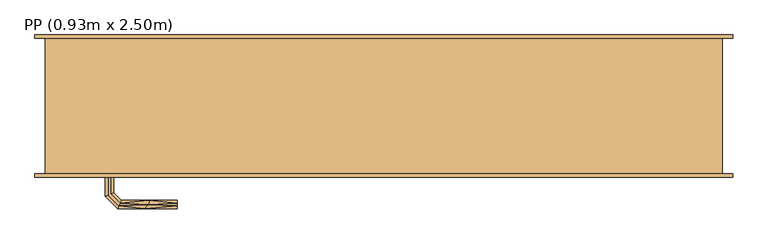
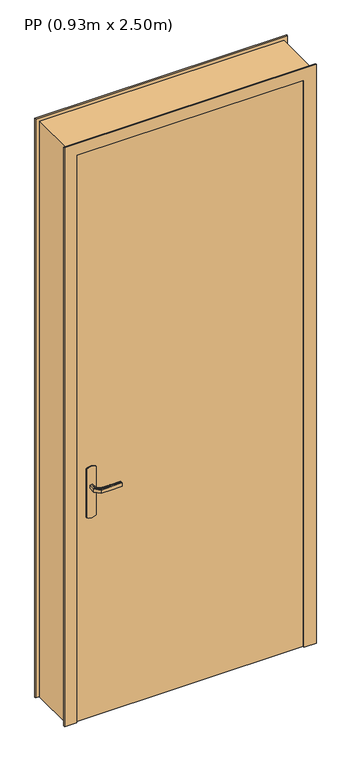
"""IFC4 building model written with IfcOpenShell, lengths in millimetres: door geometry, PP (0.93m x 2.50m)."""

from ifc_helpers import new_model, si_unit, frame, origin, origin_with_axes, place, context, project, spatial, polyline, outline, extrude, faceted_brep, source, transform, mapped, element, save


def pp_0_93m_x_2_50m_67def22d(model_context):
    return source(origin(), model_context, "Body", "SolidModel", [
        faceted_brep([(0.0, 200.0, 0.0), (-15.0, 200.0, 0.0), (-15.0, 205.0, 0.0), (50.0, 205.0, 0.0), (50.0, 40.0, 0.0), (35.0, 40.0, 0.0), (35.0, -5.0, 0.0), (-15.0, -5.0, 0.0), (-15.0, 0.0, 0.0), (0.0, 0.0, 0.0), (0.0, 200.0, 2485.0), (1000.0, 200.0, 2485.0), (1000.0, 200.0, 0.0), (1015.0, 200.0, 0.0), (1015.0, 200.0, 2500.0), (-15.0, 200.0, 2500.0), (-15.0, 205.0, 2500.0), (1015.0, 205.0, 2500.0), (1015.0, 205.0, 0.0), (950.0, 205.0, 0.0), (950.0, 205.0, 2435.0), (50.0, 205.0, 2435.0), (50.0, 40.0, 2435.0), (950.0, 40.0, 2435.0), (950.0, 40.0, 0.0), (965.0, 40.0, 0.0), (965.0, 40.0, 2450.0), (35.0, 40.0, 2450.0), (35.0, -5.0, 2450.0), (965.0, -5.0, 2450.0), (965.0, -5.0, 0.0), (1015.0, -5.0, 0.0), (1015.0, -5.0, 2500.0), (-15.0, -5.0, 2500.0), (-15.0, 0.0, 2500.0), (1015.0, 0.0, 2500.0), (1015.0, 0.0, 0.0), (1000.0, 0.0, 0.0), (1000.0, 0.0, 2485.0), (0.0, 0.0, 2485.0)], [[[0, 1, 2, 3, 4, 5, 6, 7, 8, 9]], [[1, 0, 10, 11, 12, 13, 14, 15]], [[2, 1, 15, 16]], [[3, 2, 16, 17, 18, 19, 20, 21]], [[3, 21, 22, 4]], [[5, 4, 22, 23, 24, 25, 26, 27]], [[5, 27, 28, 6]], [[7, 6, 28, 29, 30, 31, 32, 33]], [[8, 7, 33, 34]], [[9, 8, 34, 35, 36, 37, 38, 39]], [[0, 9, 39, 10]], [[11, 38, 37, 12]], [[12, 37, 36, 31, 30, 25, 24, 19, 18, 13]], [[17, 14, 13, 18]], [[23, 20, 19, 24]], [[29, 26, 25, 30]], [[35, 32, 31, 36]], [[16, 15, 14, 17]], [[22, 21, 20, 23]], [[28, 27, 26, 29]], [[34, 33, 32, 35]], [[10, 39, 38, 11]]]),
        faceted_brep([(92.9747013, 45.0, 1007.7804408), (89.0, 45.0, 1007.0), (89.0, 45.0, 993.0), (92.9747013, 45.0, 992.2195592), (97.0252987, 45.0, 992.2195592), (101.0, 45.0, 993.0), (101.0, 45.0, 1007.0), (97.0252987, 45.0, 1007.7804408), (101.0, 67.4852045, 993.0), (101.0, 67.4852045, 1007.0), (97.0252987, 69.1315797, 1007.7804408), (110.8389062, 82.9451872, 1007.7804408), (109.1610938, 86.9957845, 1007.7804408), (92.9747013, 70.8093921, 1007.7804408), (89.0, 72.4557673, 1007.0), (89.0, 72.4557673, 993.0), (92.9747013, 70.8093921, 992.2195592), (109.1610938, 86.9957845, 992.2195592), (110.8389062, 82.9451872, 992.2195592), (97.0252987, 69.1315797, 992.2195592), (112.4852814, 78.9704859, 993.0), (112.4852814, 78.9704859, 1007.0), (107.5147186, 90.9704859, 1007.0), (107.5147186, 90.9704859, 993.0), (195.0457837, 78.9704859, 993.0), (195.0457837, 82.9451872, 992.2195592), (195.0457837, 86.9957845, 992.2195592), (195.0457837, 90.9704859, 993.0), (195.0457837, 90.9704859, 1007.0), (195.0457837, 86.9957845, 1007.7804408), (195.0457837, 82.9451872, 1007.7804408), (195.0457837, 78.9704859, 1007.0), (153.7655206, 78.9704859, 993.0), (153.7655325, 78.9704859, 1007.0), (152.9423449, 84.9704859, 1007.8786868), (147.4452058, 90.9704859, 1007.0), (147.4452043, 90.9704859, 993.0), (152.9423451, 84.9704858, 992.1213132)], [[[0, 1, 2, 3, 4, 5, 6, 7]], [[6, 5, 8, 9]], [[9, 10, 7, 6]], [[10, 11, 12, 13, 0, 7]], [[13, 14, 1, 0]], [[2, 1, 14, 15]], [[15, 16, 3, 2]], [[16, 17, 18, 19, 4, 3]], [[19, 8, 5, 4]], [[9, 8, 20, 21]], [[21, 11, 10, 9]], [[12, 22, 14, 13]], [[15, 14, 22, 23]], [[23, 17, 16, 15]], [[18, 20, 8, 19]], [[24, 25, 26, 27, 28, 29, 30, 31]], [[21, 20, 32, 24, 31, 33]], [[33, 30, 34]], [[35, 34, 29]], [[21, 33, 11]], [[33, 31, 30]], [[28, 35, 29]], [[22, 12, 35]], [[35, 12, 34]], [[12, 11, 34]], [[11, 33, 34]], [[29, 34, 30]], [[22, 35, 28, 27, 36, 23]], [[36, 26, 37]], [[27, 26, 36]], [[17, 23, 36]], [[37, 32, 18]], [[20, 18, 32]], [[32, 25, 24]], [[26, 25, 37]], [[25, 32, 37]], [[17, 36, 37]], [[17, 37, 18]]]),
        extrude(outline(polyline([(35.0, 40.0), (965.0, 40.0), (965.0, 0.0), (35.0, 0.0), (35.0, 40.0)])), origin_with_axes(), (0.0, 0.0, 1.0), 2450.0),
        faceted_brep([(92.9747013, -5.0, 1007.7804408), (97.0252987, -5.0, 1007.7804408), (101.0, -5.0, 1007.0), (101.0, -5.0, 993.0), (97.0252987, -5.0, 992.2195592), (92.9747013, -5.0, 992.2195592), (89.0, -5.0, 993.0), (89.0, -5.0, 1007.0), (89.0, -32.6509507, 1007.0), (92.9747013, -31.0045755, 1007.7804408), (109.0235852, -47.0534593, 1007.7804408), (110.7013975, -43.002862, 1007.7804408), (97.0252987, -29.3267632, 1007.7804408), (101.0, -27.680388, 1007.0), (101.0, -27.680388, 993.0), (97.0252987, -29.3267632, 992.2195592), (110.7013975, -43.002862, 992.2195592), (109.0235852, -47.0534593, 992.2195592), (92.9747013, -31.0045755, 992.2195592), (89.0, -32.6509507, 993.0), (107.37721, -51.0281607, 1007.0), (112.3477727, -39.0281607, 1007.0), (112.3477727, -39.0281607, 993.0), (107.37721, -51.0281607, 993.0), (195.0186406, -51.0281607, 993.0), (195.0186406, -47.0534593, 992.2195592), (195.0186406, -43.002862, 992.2195592), (195.0186406, -39.0281607, 993.0), (195.0186406, -39.0281607, 1007.0), (195.0186406, -43.002862, 1007.7804408), (195.0186406, -47.0534593, 1007.7804408), (195.0186406, -51.0281607, 1007.0), (147.3076972, -51.0281607, 1007.0), (152.8600191, -45.0281607, 1007.8786868), (153.6832067, -39.0281607, 1007.0), (153.6832067, -39.0281607, 993.0), (152.8600189, -45.0281608, 992.1213132), (147.3077002, -51.0281607, 993.0)], [[[0, 1, 2, 3, 4, 5, 6, 7]], [[8, 9, 0, 7]], [[9, 10, 11, 12, 1, 0]], [[12, 13, 2, 1]], [[3, 2, 13, 14]], [[14, 15, 4, 3]], [[15, 16, 17, 18, 5, 4]], [[18, 19, 6, 5]], [[7, 6, 19, 8]], [[20, 10, 9, 8]], [[11, 21, 13, 12]], [[14, 13, 21, 22]], [[22, 16, 15, 14]], [[17, 23, 19, 18]], [[8, 19, 23, 20]], [[24, 25, 26, 27, 28, 29, 30, 31]], [[32, 30, 33]], [[31, 30, 32]], [[10, 20, 32]], [[33, 34, 11]], [[21, 11, 34]], [[34, 29, 28]], [[30, 29, 33]], [[29, 34, 33]], [[10, 32, 33]], [[10, 33, 11]], [[22, 21, 34, 28, 27, 35]], [[35, 26, 36]], [[37, 36, 25]], [[22, 35, 16]], [[35, 27, 26]], [[24, 37, 25]], [[23, 17, 37]], [[37, 17, 36]], [[17, 16, 36]], [[16, 35, 36]], [[25, 36, 26]], [[20, 23, 37, 24, 31, 32]]]),
        extrude(outline(polyline([(866.0039831, 105.3527618), (870.0, 115.0), (1080.0, 115.0), (1083.9960169, 105.3527618), (1085.3589838, 95.0), (1083.9960169, 84.6472382), (1080.0, 75.0), (870.0, 75.0), (866.0039831, 84.6472382), (864.6410162, 95.0), (866.0039831, 105.3527618)])), frame((0.0, -5.0, 0.0), z_axis=(0.0, 1.0, 0.0), x_axis=(0.0, 0.0, 1.0)), (0.0, 0.0, 1.0), 5.0),
        extrude(outline(polyline([(866.0039831, 105.3527618), (870.0, 115.0), (1080.0, 115.0), (1083.9960169, 105.3527618), (1085.3589838, 95.0), (1083.9960169, 84.6472382), (1080.0, 75.0), (870.0, 75.0), (866.0039831, 84.6472382), (864.6410162, 95.0), (866.0039831, 105.3527618)])), frame((0.0, 40.0, 0.0), z_axis=(0.0, 1.0, 0.0), x_axis=(0.0, 0.0, 1.0)), (0.0, 0.0, 1.0), 5.0),
    ])


if __name__ == "__main__":
    model = new_model("IFC4")
    model_context = context("Model", 3, world=origin())
    ifc_project = project(units=[si_unit("LENGTHUNIT", "METRE", prefix="MILLI")], contexts=[model_context])
    site = spatial("IfcSite", under=ifc_project)
    building = spatial("IfcBuilding", under=site)
    placement = place(None, origin())
    pp_0_93m_x_2_50m_shape = pp_0_93m_x_2_50m_67def22d(model_context)
    element("IfcDoor", 1, ObjectType="PP (0.93m x 2.50m)", at=placement, inside=building, context=model_context, shape_type="MappedRepresentation", body=[
        mapped(pp_0_93m_x_2_50m_shape, transform((0.0, 0.0, 0.0), x_axis=(1.0, 0.0, 0.0), y_axis=(0.0, 1.0, 0.0), z_axis=(0.0, 0.0, 1.0))),
    ])
    save(model, "model.ifc")
